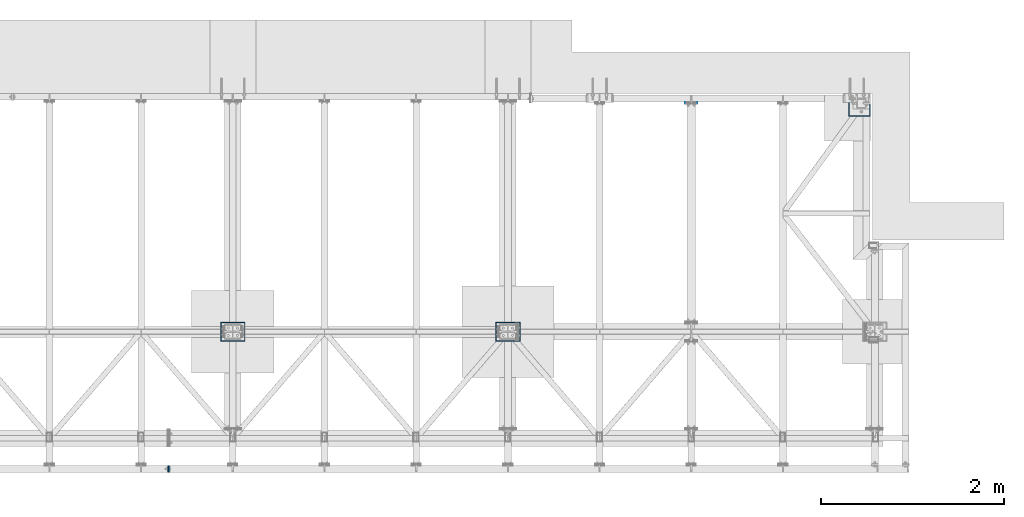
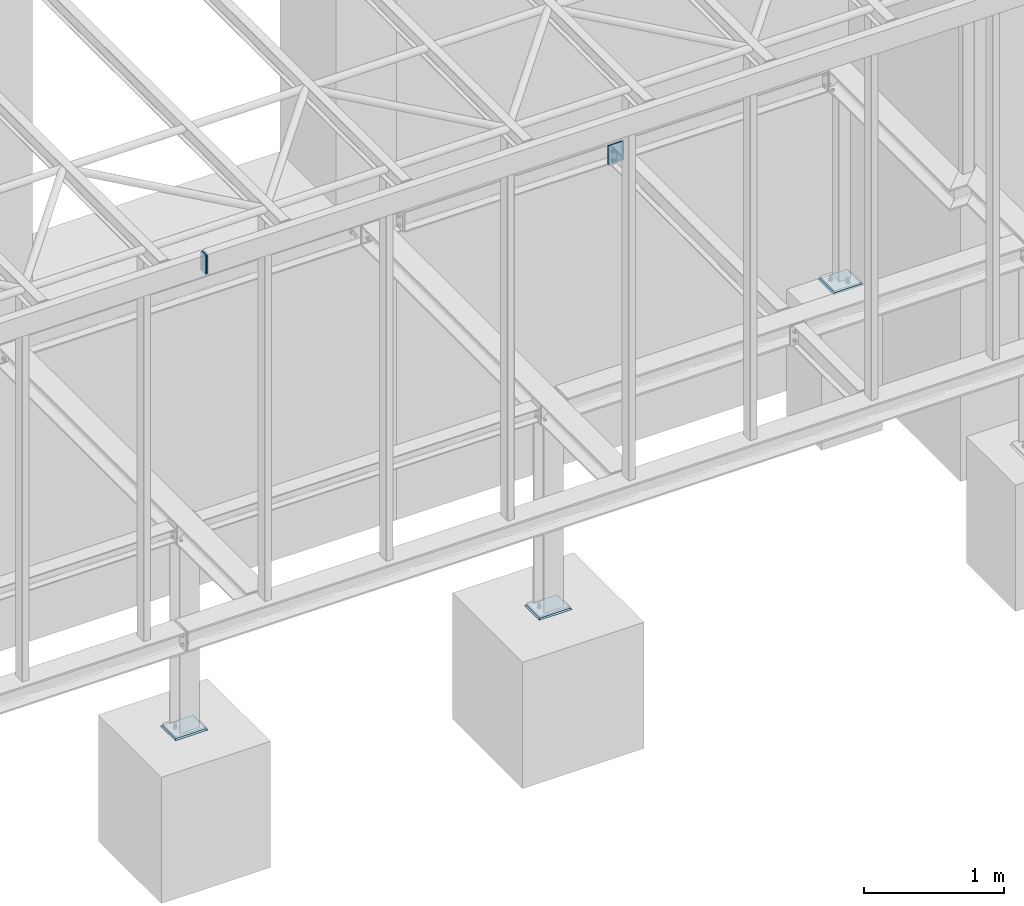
# One storey, part 9 of 23: 6 plates, 6 elements without a shape of their own.
"""IFC2X3 building model written with IfcOpenShell, lengths in millimetres."""

from ifc_helpers import new_model, si_unit, frame, origin_with_axes, place, context, subcontext, project, spatial, polyline, outline, extrude, boolean, material, type_object, element, aggregate, save


model = new_model("IFC2X3")

# Units and contexts
model_context = context("Model", 3, precision=1e-05, world=origin_with_axes())
body_context = subcontext(model_context, "Body", "Model", "MODEL_VIEW")
ifc_project = project(units=[si_unit("LENGTHUNIT", "METRE", prefix="MILLI"), si_unit("AREAUNIT", "SQUARE_METRE"), si_unit("VOLUMEUNIT", "CUBIC_METRE"), si_unit("MASSUNIT", "GRAM", prefix="KILO"), si_unit("TIMEUNIT", "SECOND"), si_unit("PLANEANGLEUNIT", "RADIAN"), si_unit("SOLIDANGLEUNIT", "STERADIAN"), si_unit("THERMODYNAMICTEMPERATUREUNIT", "DEGREE_CELSIUS"), si_unit("LUMINOUSINTENSITYUNIT", "LUMEN")], contexts=[model_context])

# Site, building, storey
site_placement = place(None, origin_with_axes())
site = spatial("IfcSite", under=ifc_project, at=site_placement, Name="Undefined", CompositionType="ELEMENT")
building_placement = place(site_placement, origin_with_axes())
building = spatial("IfcBuilding", under=site, at=building_placement, Name="Undefined", CompositionType="ELEMENT")
storey_placement = place(building_placement, origin_with_axes())
storey = spatial("IfcBuildingStorey", under=building, at=storey_placement, Name="Undefined", CompositionType="ELEMENT", Elevation=0.0)

# Assembly, plate
assembly_1_placement = place(storey_placement, origin_with_axes())
assembly_1 = element("IfcElementAssembly", 1, at=assembly_1_placement, inside=storey, Name="GROUT", AssemblyPlace="NOTDEFINED", PredefinedType="NOTDEFINED")
ifc_material_1 = material(Name="Undefined/GROUT")
plate_type_1 = type_object("IfcPlateType", Name="PL10*230", PredefinedType="NOTDEFINED")
plate_1_placement = place(assembly_1_placement, frame((16005.0, 3610.0, -1995.0), z_axis=(0.0, 0.0, 1.0), x_axis=(0.0, 1.0, 0.0)))
plate_1 = element("IfcPlate", 2, at=plate_1_placement, type_object=plate_type_1, material=ifc_material_1, Name="GROUT", ObjectType="PL10*230", context=body_context, shape_type="CSG", body=[
    boolean("DIFFERENCE", boolean("DIFFERENCE", boolean("DIFFERENCE", boolean("DIFFERENCE", extrude(outline(polyline([(0.0, 0.0), (230.0, 0.0), (230.0, 240.0), (0.0, 240.0), (0.0, 0.0)])), frame((0.0, 0.0, -5.0), z_axis=(0.0, 0.0, 1.0), x_axis=(1.0, 0.0, 0.0)), (0.0, 0.0, 1.0), 10.0), extrude(outline(polyline([(0.0, 0.0), (30.1421356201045, -2.00088834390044e-11), (15.0710678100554, 15.0710678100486), (0.0, 0.0)])), frame((-5.65685424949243, 288.0, -10.6568542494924), z_axis=(0.0, -1.0, 0.0), x_axis=(0.707106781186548, 0.0, 0.707106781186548)), (0.0, 0.0, 1.0), 306.0)), extrude(outline(polyline([(0.0, 0.0), (28.1421356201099, -2.91038304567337e-11), (14.0710678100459, 14.0710678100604), (0.0, 0.0)])), frame((258.0, 244.949747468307, -9.94974746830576), z_axis=(-1.0, 0.0, 0.0), x_axis=(0.0, -0.707106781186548, 0.707106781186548)), (0.0, 0.0, 1.0), 304.0)), extrude(outline(polyline([(0.0, 0.0), (26.1421356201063, -2.1600499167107e-11), (13.0710678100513, 13.0710678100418), (0.0, 0.0)])), frame((234.242640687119, -16.0, -9.24264068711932), z_axis=(0.0, 1.0, 0.0), x_axis=(-0.707106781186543, 0.0, 0.707106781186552)), (0.0, 0.0, 1.0), 302.0)), extrude(outline(polyline([(0.0, 0.0), (24.1421356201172, -1.81898940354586e-11), (12.0710678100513, 12.071067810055), (0.0, 0.0)])), frame((-44.0, -3.53553390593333, -8.53553390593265), z_axis=(1.0, 0.0, 0.0), x_axis=(0.0, 0.707106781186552, 0.707106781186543)), (0.0, 0.0, 1.0), 300.0)),
])
aggregate(assembly_1, [plate_1])

assembly_2_placement = place(storey_placement, origin_with_axes())
assembly_2 = element("IfcElementAssembly", 3, at=assembly_2_placement, inside=storey, Name="GROUT", AssemblyPlace="NOTDEFINED", PredefinedType="NOTDEFINED")
plate_type_2 = type_object("IfcPlateType", Name="PL10*212", PredefinedType="NOTDEFINED")
plate_2_placement = place(assembly_2_placement, frame((12185.0, 1154.0, -1995.0), z_axis=(0.0, 0.0, 1.0), x_axis=(0.0, 1.0, 0.0)))
plate_2 = element("IfcPlate", 4, at=plate_2_placement, type_object=plate_type_2, material=ifc_material_1, Name="GROUT", ObjectType="PL10*212", context=body_context, shape_type="CSG", body=[
    boolean("DIFFERENCE", boolean("DIFFERENCE", boolean("DIFFERENCE", boolean("DIFFERENCE", extrude(outline(polyline([(0.0, 0.0), (212.0, 0.0), (212.0, 270.0), (0.0, 270.0), (0.0, 0.0)])), frame((0.0, 0.0, -5.0), z_axis=(0.0, 0.0, 1.0), x_axis=(1.0, 0.0, 0.0)), (0.0, 0.0, 1.0), 10.0), extrude(outline(polyline([(0.0, 0.0), (30.1421356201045, -2.00088834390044e-11), (15.0710678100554, 15.0710678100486), (0.0, 0.0)])), frame((-5.65685424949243, 288.0, -10.6568542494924), z_axis=(0.0, -1.0, 0.0), x_axis=(0.707106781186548, 0.0, 0.707106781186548)), (0.0, 0.0, 1.0), 306.0)), extrude(outline(polyline([(0.0, 0.0), (28.1421356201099, -2.91038304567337e-11), (14.0710678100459, 14.0710678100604), (0.0, 0.0)])), frame((258.0, 274.949747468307, -9.94974746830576), z_axis=(-1.0, 0.0, 0.0), x_axis=(0.0, -0.707106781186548, 0.707106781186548)), (0.0, 0.0, 1.0), 304.0)), extrude(outline(polyline([(0.0, 0.0), (26.1421356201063, -2.1600499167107e-11), (13.0710678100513, 13.0710678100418), (0.0, 0.0)])), frame((216.242640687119, -16.0, -9.24264068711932), z_axis=(0.0, 1.0, 0.0), x_axis=(-0.707106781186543, 0.0, 0.707106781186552)), (0.0, 0.0, 1.0), 302.0)), extrude(outline(polyline([(0.0, 0.0), (24.1421356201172, -1.81898940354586e-11), (12.0710678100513, 12.071067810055), (0.0, 0.0)])), frame((-44.0, -3.53553390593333, -8.53553390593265), z_axis=(1.0, 0.0, 0.0), x_axis=(0.0, 0.707106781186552, 0.707106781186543)), (0.0, 0.0, 1.0), 300.0)),
])
aggregate(assembly_2, [plate_2])

assembly_3_placement = place(storey_placement, origin_with_axes())
assembly_3 = element("IfcElementAssembly", 5, at=assembly_3_placement, inside=storey, Name="GROUT", AssemblyPlace="NOTDEFINED", PredefinedType="NOTDEFINED")
plate_3_placement = place(assembly_3_placement, frame((9185.0, 1154.0, -1995.0), z_axis=(0.0, 0.0, 1.0), x_axis=(0.0, 1.0, 0.0)))
plate_3 = element("IfcPlate", 6, at=plate_3_placement, type_object=plate_type_2, material=ifc_material_1, Name="GROUT", ObjectType="PL10*212", context=body_context, shape_type="CSG", body=[
    boolean("DIFFERENCE", boolean("DIFFERENCE", boolean("DIFFERENCE", boolean("DIFFERENCE", extrude(outline(polyline([(0.0, 0.0), (212.0, 0.0), (212.0, 270.0), (0.0, 270.0), (0.0, 0.0)])), frame((0.0, 0.0, -5.0), z_axis=(0.0, 0.0, 1.0), x_axis=(1.0, 0.0, 0.0)), (0.0, 0.0, 1.0), 10.0), extrude(outline(polyline([(0.0, 0.0), (30.1421356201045, -2.00088834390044e-11), (15.0710678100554, 15.0710678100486), (0.0, 0.0)])), frame((-5.65685424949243, 288.0, -10.6568542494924), z_axis=(0.0, -1.0, 0.0), x_axis=(0.707106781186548, 0.0, 0.707106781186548)), (0.0, 0.0, 1.0), 306.0)), extrude(outline(polyline([(0.0, 0.0), (28.1421356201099, -2.91038304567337e-11), (14.0710678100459, 14.0710678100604), (0.0, 0.0)])), frame((258.0, 274.949747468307, -9.94974746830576), z_axis=(-1.0, 0.0, 0.0), x_axis=(0.0, -0.707106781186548, 0.707106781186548)), (0.0, 0.0, 1.0), 304.0)), extrude(outline(polyline([(0.0, 0.0), (26.1421356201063, -2.1600499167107e-11), (13.0710678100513, 13.0710678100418), (0.0, 0.0)])), frame((216.242640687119, -16.0, -9.24264068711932), z_axis=(0.0, 1.0, 0.0), x_axis=(-0.707106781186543, 0.0, 0.707106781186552)), (0.0, 0.0, 1.0), 302.0)), extrude(outline(polyline([(0.0, 0.0), (24.1421356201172, -1.81898940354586e-11), (12.0710678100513, 12.071067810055), (0.0, 0.0)])), frame((-44.0, -3.53553390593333, -8.53553390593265), z_axis=(1.0, 0.0, 0.0), x_axis=(0.0, 0.707106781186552, 0.707106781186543)), (0.0, 0.0, 1.0), 300.0)),
])
aggregate(assembly_3, [plate_3])

assembly_4_placement = place(storey_placement, origin_with_axes())
assembly_4 = element("IfcElementAssembly", 7, at=assembly_4_placement, inside=storey, AssemblyPlace="NOTDEFINED", PredefinedType="REINFORCEMENT_UNIT")
ifc_material_2 = material(Name="STEEL/S235JR")
plate_type_3 = type_object("IfcPlateType", Name="PL10*130", PredefinedType="NOTDEFINED")
plate_4_placement = place(assembly_4_placement, frame((13985.0, 3760.0, -168.0), z_axis=(0.0, 1.0, 0.0), x_axis=(1.0, 0.0, 0.0)))
plate_4 = element("IfcPlate", 8, at=plate_4_placement, type_object=plate_type_3, material=ifc_material_2, Name="PLECH", ObjectType="PL10*130", context=body_context, shape_type="SweptSolid", body=[
    extrude(outline(polyline([(0.0, 0.0), (130.0, 0.0), (130.0, 164.0), (0.0, 164.0), (0.0, 0.0)])), frame((0.0, 0.0, -5.0), z_axis=(0.0, 0.0, 1.0), x_axis=(1.0, 0.0, 0.0)), (0.0, 0.0, 1.0), 10.0),
])
aggregate(assembly_4, [plate_4])

assembly_5_placement = place(storey_placement, origin_with_axes())
assembly_5 = element("IfcElementAssembly", 9, at=assembly_5_placement, inside=storey, Name="Steel Assembly", AssemblyPlace="NOTDEFINED", PredefinedType="RIGID_FRAME")
plate_type_4 = type_object("IfcPlateType", Name="PL10*70", PredefinedType="NOTDEFINED")
plate_5_placement = place(assembly_5_placement, frame((8345.0, -199.999999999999, 3289.5), z_axis=(1.0, 0.0, 0.0), x_axis=(0.0, -1.0, 0.0)))
plate_5 = element("IfcPlate", 10, at=plate_5_placement, type_object=plate_type_4, material=ifc_material_2, Name="PLECH", ObjectType="PL10*70", context=body_context, shape_type="SweptSolid", body=[
    extrude(outline(polyline([(0.0, 0.0), (70.0, 4.54747350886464e-13), (70.0, 159.0), (0.0, 159.0), (0.0, 0.0)])), frame((0.0, 0.0, -5.0), z_axis=(0.0, 0.0, 1.0), x_axis=(1.0, 0.0, 0.0)), (0.0, 0.0, 1.0), 10.0),
])
aggregate(assembly_5, [plate_5])

assembly_6_placement = place(storey_placement, origin_with_axes())
assembly_6 = element("IfcElementAssembly", 11, at=assembly_6_placement, inside=storey, Name="Steel Assembly", AssemblyPlace="NOTDEFINED", PredefinedType="RIGID_FRAME")
plate_6_placement = place(assembly_6_placement, frame((8355.0, -199.999999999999, 3289.5), z_axis=(1.0, 0.0, 0.0), x_axis=(0.0, -1.0, 0.0)))
plate_6 = element("IfcPlate", 12, at=plate_6_placement, type_object=plate_type_4, material=ifc_material_2, Name="PLECH", ObjectType="PL10*70", context=body_context, shape_type="SweptSolid", body=[
    extrude(outline(polyline([(0.0, 0.0), (70.0, 4.54747350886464e-13), (70.0, 159.0), (0.0, 159.0), (0.0, 0.0)])), frame((0.0, 0.0, -5.0), z_axis=(0.0, 0.0, 1.0), x_axis=(1.0, 0.0, 0.0)), (0.0, 0.0, 1.0), 10.0),
])
aggregate(assembly_6, [plate_6])

save(model, "model.ifc")
